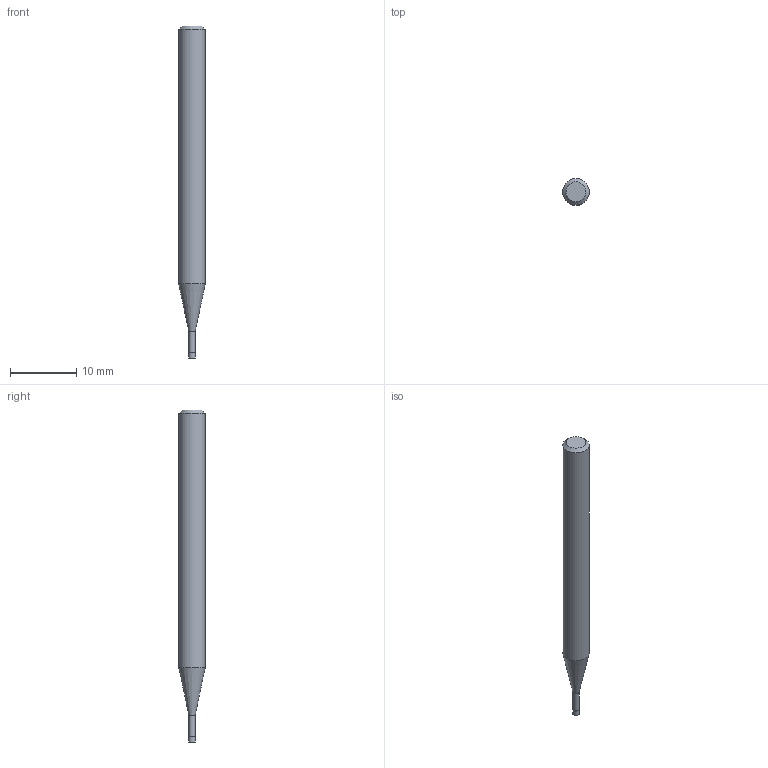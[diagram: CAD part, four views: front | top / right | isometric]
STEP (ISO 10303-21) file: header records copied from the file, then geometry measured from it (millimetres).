
FILE_DESCRIPTION((''),'2;1');
FILE_NAME('C:\Users\nsx150\AppData\Local\Temp\Mastercam 2021\RJ5U8K7RMU\TEMP.step','2021-04-21T16:40:55',(''),(''),'STEP Write','Mastercam 2021 ... CNC Software, Inc.','');
FILE_SCHEMA(('AUTOMOTIVE_DESIGN'));
Length unit declared in the file: millimetre
Products named in the file (1): None
Bounding box: 4 x 4 x 50 mm (x, y, z)
Volume: 528.2 mm3; surface area: 567.8 mm2
Topology: 2 solids, 2 shells, 9 faces, 12 edges, 7 vertices
Faces by surface type: plane 4, cylinder 3, cone 2
Full cylindrical faces by diameter (mm): 0.95 x1, 1 x1, 4 x1
Entity records: 211 total; most frequent: DIRECTION 36, CARTESIAN_POINT 25, AXIS2_PLACEMENT_3D 18, ORIENTED_EDGE 14, EDGE_LOOP 14, STYLED_ITEM 12, ADVANCED_FACE 9, FACE_BOUND 8
